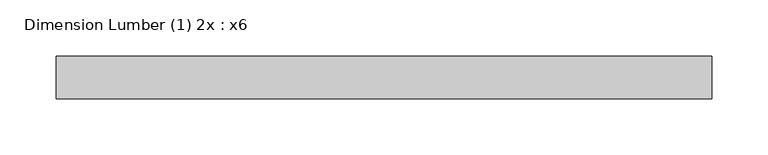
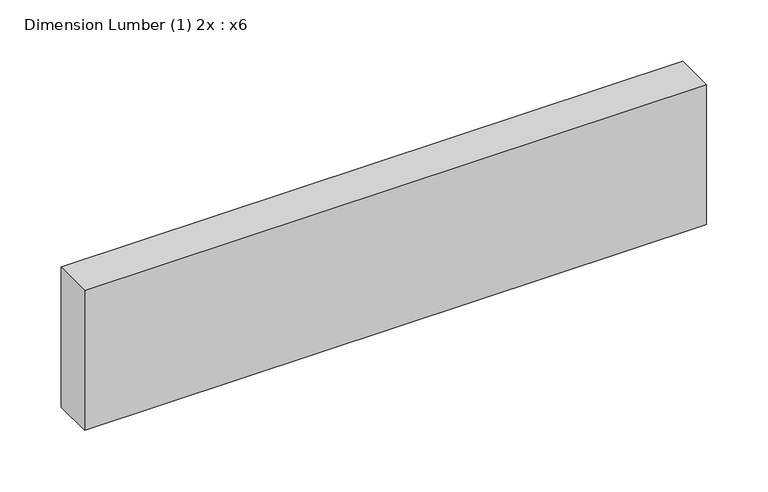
"""IFC4 building model written with IfcOpenShell, lengths in millimetres: beam geometry, Dimension Lumber (1) 2x : x6."""

from ifc_helpers import new_model, si_unit, frame, origin, place, context, project, spatial, polyline, outline, extrude, source, transform, mapped, element, save


def dimension_lumber_1_2x_x6_213a55a6(model_context):
    return source(origin(), model_context, "Body", "SweptSolid", [
        extrude(outline(polyline([(270.1501681, 19.05), (270.1501681, -19.05), (-315.3180038, -19.05), (-315.3180038, 19.05), (270.1501681, 19.05)])), frame((0.0, 0.0, -69.85), z_axis=(0.0, 0.0, 1.0), x_axis=(1.0, 0.0, 0.0)), (0.0, 0.0, 1.0), 139.7),
    ])


if __name__ == "__main__":
    model = new_model("IFC4")
    model_context = context("Model", 3, world=origin())
    ifc_project = project(units=[si_unit("LENGTHUNIT", "METRE", prefix="MILLI")], contexts=[model_context])
    site = spatial("IfcSite", under=ifc_project)
    building = spatial("IfcBuilding", under=site)
    placement = place(None, origin())
    dimension_lumber_1_2x_x6_shape = dimension_lumber_1_2x_x6_213a55a6(model_context)
    element("IfcBeam", 1, ObjectType="Dimension Lumber (1) 2x : x6", at=placement, inside=building, context=model_context, shape_type="MappedRepresentation", body=[
        mapped(dimension_lumber_1_2x_x6_shape, transform((0.0, 0.0, 0.0), x_axis=(1.0, 0.0, 0.0), y_axis=(0.0, 1.0, 0.0), z_axis=(0.0, 0.0, 1.0))),
    ])
    save(model, "model.ifc")
